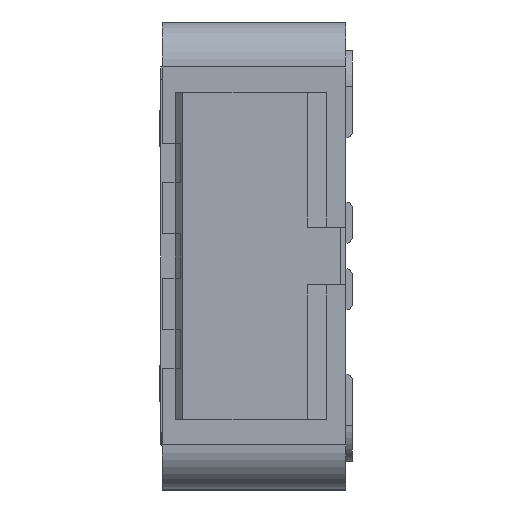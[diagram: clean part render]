
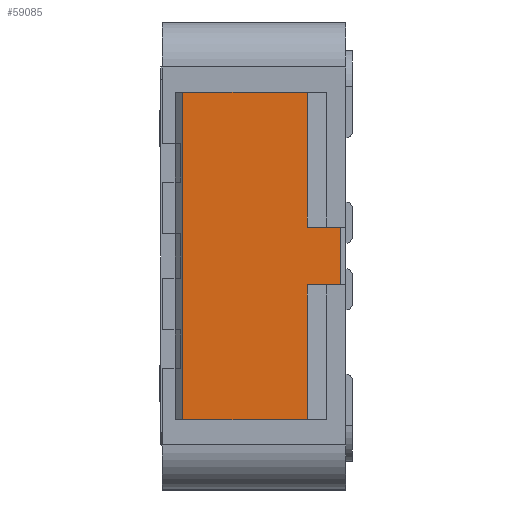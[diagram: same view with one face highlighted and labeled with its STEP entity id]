
A CAD part, left-side view. The second image highlights one B-rep face of the part: STEP entity #59085.
In plain terms, the highlighted planar face has unit normal (-1, 0, 0).
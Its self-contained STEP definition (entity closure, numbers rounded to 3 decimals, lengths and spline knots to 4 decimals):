
#176 = ORIENTED_EDGE ( 'NONE', *, *, #10270, .T. ) ;
#2313 = LINE ( 'NONE', #12219, #32573 ) ;
#2634 = DIRECTION ( 'NONE',  ( 0., -1., 0. ) ) ;
#2754 = ORIENTED_EDGE ( 'NONE', *, *, #53277, .F. ) ;
#4201 = EDGE_CURVE ( 'NONE', #20141, #17009, #23463, .T. ) ;
#4365 = ORIENTED_EDGE ( 'NONE', *, *, #63972, .F. ) ;
#6015 = CARTESIAN_POINT ( 'NONE',  ( -1.825, 0.35, 1.275 ) ) ;
#6350 = PLANE ( 'NONE',  #13734 ) ;
#7035 = CARTESIAN_POINT ( 'NONE',  ( -1.825, 1.32, 1.275 ) ) ;
#7663 = VECTOR ( 'NONE', #20175, 1000. ) ;
#8755 = VERTEX_POINT ( 'NONE', #42183 ) ;
#10270 = EDGE_CURVE ( 'NONE', #17009, #27091, #40479, .T. ) ;
#12219 = CARTESIAN_POINT ( 'NONE',  ( -1.825, 0.2, 0.225 ) ) ;
#12528 = EDGE_CURVE ( 'NONE', #50772, #12529, #58232, .T. ) ;
#12529 = VERTEX_POINT ( 'NONE', #57908 ) ;
#12897 = DIRECTION ( 'NONE',  ( 0., 0., -1. ) ) ;
#13734 = AXIS2_PLACEMENT_3D ( 'NONE', #26828, #57246, #16911 ) ;
#16518 = VECTOR ( 'NONE', #40008, 1000. ) ;
#16911 = DIRECTION ( 'NONE',  ( 0., 0., -1. ) ) ;
#17009 = VERTEX_POINT ( 'NONE', #43773 ) ;
#18018 = EDGE_LOOP ( 'NONE', ( #176, #31602, #35581, #4365, #2754, #60969, #54722, #50119 ) ) ;
#19521 = CARTESIAN_POINT ( 'NONE',  ( -1.825, 0.09, 1.275 ) ) ;
#19806 = VECTOR ( 'NONE', #31288, 1000. ) ;
#20141 = VERTEX_POINT ( 'NONE', #7035 ) ;
#20175 = DIRECTION ( 'NONE',  ( 0., -1., 0. ) ) ;
#21216 = CARTESIAN_POINT ( 'NONE',  ( -1.825, 0.35, -0.225 ) ) ;
#21253 = LINE ( 'NONE', #40438, #42609 ) ;
#23463 = LINE ( 'NONE', #38672, #60213 ) ;
#23940 = CARTESIAN_POINT ( 'NONE',  ( -1.825, 0.09, 0.225 ) ) ;
#26326 = CARTESIAN_POINT ( 'NONE',  ( -1.825, 0.35, -0.225 ) ) ;
#26828 = CARTESIAN_POINT ( 'NONE',  ( -1.825, 0.09, 1.275 ) ) ;
#27091 = VERTEX_POINT ( 'NONE', #35700 ) ;
#27950 = VECTOR ( 'NONE', #45774, 1000. ) ;
#29912 = CARTESIAN_POINT ( 'NONE',  ( -1.825, 0.09, -1.275 ) ) ;
#31069 = LINE ( 'NONE', #45297, #16518 ) ;
#31288 = DIRECTION ( 'NONE',  ( 0., 0., 1. ) ) ;
#31602 = ORIENTED_EDGE ( 'NONE', *, *, #31638, .T. ) ;
#31638 = EDGE_CURVE ( 'NONE', #27091, #50772, #61682, .T. ) ;
#32467 = CARTESIAN_POINT ( 'NONE',  ( -1.825, 0.2, -0.225 ) ) ;
#32573 = VECTOR ( 'NONE', #2634, 1000. ) ;
#34002 = VERTEX_POINT ( 'NONE', #6015 ) ;
#35581 = ORIENTED_EDGE ( 'NONE', *, *, #12528, .T. ) ;
#35700 = CARTESIAN_POINT ( 'NONE',  ( -1.825, 0.35, -1.275 ) ) ;
#36136 = DIRECTION ( 'NONE',  ( 0., 0., -1. ) ) ;
#38672 = CARTESIAN_POINT ( 'NONE',  ( -1.825, 1.32, 1.275 ) ) ;
#39364 = LINE ( 'NONE', #19521, #7663 ) ;
#40008 = DIRECTION ( 'NONE',  ( 0., 0., 1. ) ) ;
#40438 = CARTESIAN_POINT ( 'NONE',  ( -1.825, 0.09, 1.275 ) ) ;
#40479 = LINE ( 'NONE', #29912, #27950 ) ;
#42183 = CARTESIAN_POINT ( 'NONE',  ( -1.825, 0.35, 0.225 ) ) ;
#42609 = VECTOR ( 'NONE', #36136, 1000. ) ;
#43773 = CARTESIAN_POINT ( 'NONE',  ( -1.825, 1.32, -1.275 ) ) ;
#45297 = CARTESIAN_POINT ( 'NONE',  ( -1.825, 0.35, 1.275 ) ) ;
#45774 = DIRECTION ( 'NONE',  ( 0., -1., 0. ) ) ;
#50119 = ORIENTED_EDGE ( 'NONE', *, *, #4201, .T. ) ;
#50772 = VERTEX_POINT ( 'NONE', #21216 ) ;
#51103 = EDGE_CURVE ( 'NONE', #8755, #34002, #31069, .T. ) ;
#51965 = FACE_OUTER_BOUND ( 'NONE', #18018, .T. ) ;
#52629 = DIRECTION ( 'NONE',  ( 0., -1., 0. ) ) ;
#53277 = EDGE_CURVE ( 'NONE', #8755, #56559, #2313, .T. ) ;
#54722 = ORIENTED_EDGE ( 'NONE', *, *, #61466, .F. ) ;
#56559 = VERTEX_POINT ( 'NONE', #23940 ) ;
#57246 = DIRECTION ( 'NONE',  ( 1., 0., 0. ) ) ;
#57908 = CARTESIAN_POINT ( 'NONE',  ( -1.825, 0.09, -0.225 ) ) ;
#58232 = LINE ( 'NONE', #32467, #60908 ) ;
#59085 = ADVANCED_FACE ( 'NONE', ( #51965 ), #6350, .F. ) ;
#60213 = VECTOR ( 'NONE', #12897, 1000. ) ;
#60908 = VECTOR ( 'NONE', #52629, 1000. ) ;
#60969 = ORIENTED_EDGE ( 'NONE', *, *, #51103, .T. ) ;
#61466 = EDGE_CURVE ( 'NONE', #20141, #34002, #39364, .T. ) ;
#61682 = LINE ( 'NONE', #26326, #19806 ) ;
#63972 = EDGE_CURVE ( 'NONE', #56559, #12529, #21253, .T. ) ;
